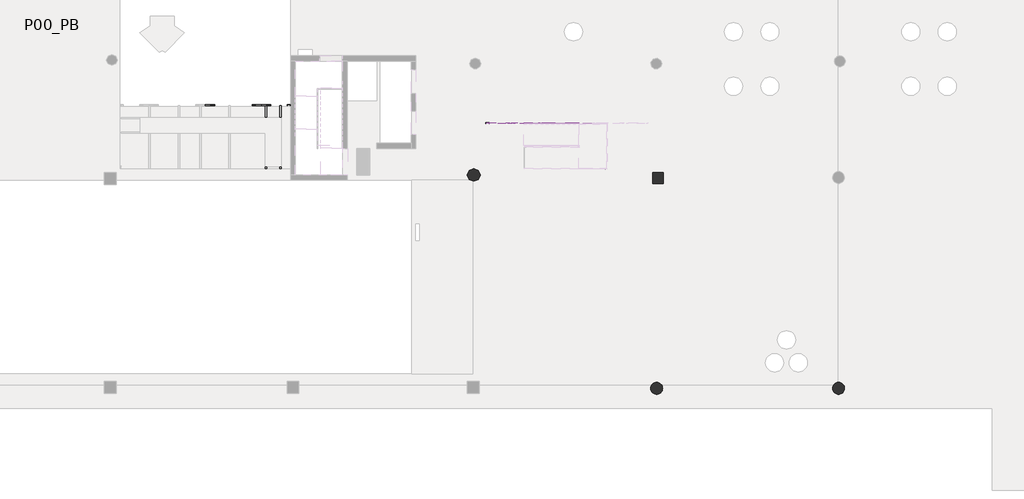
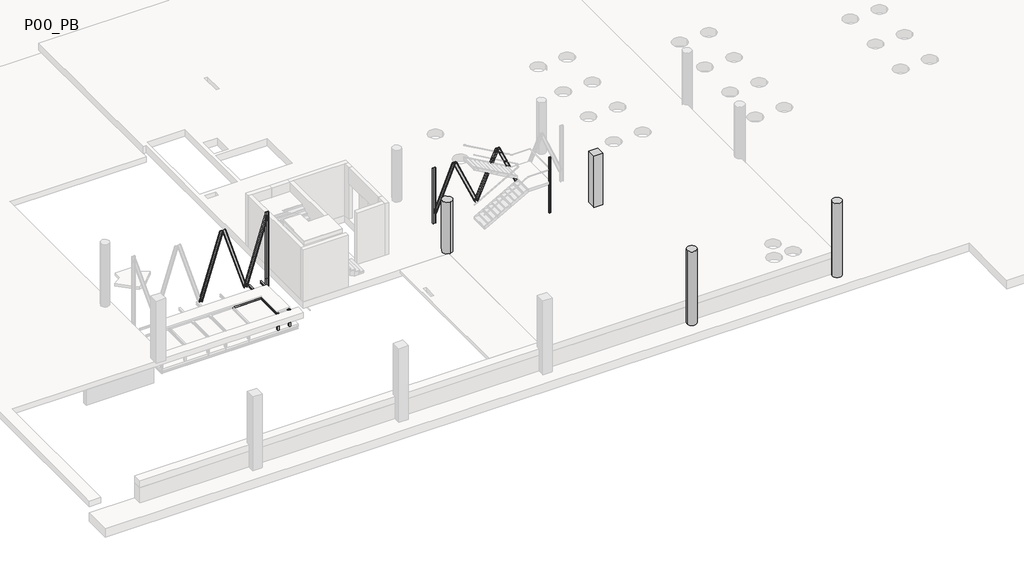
# One storey, part 3 of 7: 17 beams, 10 columns.
"""IFC4 building model written with IfcOpenShell, lengths in millimetres."""

from ifc_helpers import new_model, si_unit, frame, origin, place, context, project, spatial, polyline, circle_curve, ellipse_curve, faceted_brep, transform, mapped, element, save
from ifc_brep_helpers import plane_surface, cylinder_surface, revolved_surface, advanced_brep
from components import ub_universal_beams_ipe_160x82_45623c42, ub_universal_beams_ipe_160x82_16e40fe9, upn120x55_69f0bca1, upn120x55_efc8f615, upn120x55_2e91fe93, upn120x55_dd576345, upn200x75_6b2373fe, upn200x75_76623e6e, upn200x75_c57adbb2, rhs_rectangular_hollow_section_column_100x80x5_0rhs_e8ea1d76, ub_universal_beam_column_ipe_160x82_506ee74c, upn_200x75_e6625032, upn_200x75_16539f99, upn_200x75_48ebdcb8

model = new_model("IFC4")

# Units and contexts
model_context = context("Model", 3, world=origin())
ifc_project = project(units=[si_unit("LENGTHUNIT", "METRE", prefix="MILLI")], contexts=[model_context])

# Site, building, storey
site = spatial("IfcSite", under=ifc_project)
building = spatial("IfcBuilding", under=site)
storey = spatial("IfcBuildingStorey", under=building, Name="P00_PB", Elevation=6330.0)

# Beams
placement = place(None, origin())
ub_universal_beams_ipe_160x82_shape = ub_universal_beams_ipe_160x82_45623c42(model_context)
element("IfcBeam", 1, ObjectType="UB-Universal Beams : IPE 160x82", at=placement, inside=storey, context=model_context, shape_type="MappedRepresentation", body=[
    mapped(ub_universal_beams_ipe_160x82_shape, transform((-14190.4459331, -2796.6939066, 4860.0), x_axis=(0.0, 1.0, 0.0), y_axis=(-1.0, 0.0, 0.0), z_axis=(0.0, 0.0, 1.0))),
])
element("IfcBeam", 2, ObjectType="UB-Universal Beams : IPE 160x82", at=placement, inside=storey, context=model_context, shape_type="MappedRepresentation", body=[
    mapped(ub_universal_beams_ipe_160x82_shape, transform((-14990.4459326, -2796.6938939, 4860.0), x_axis=(0.0, 1.0, 0.0), y_axis=(-1.0, 0.0, 0.0), z_axis=(0.0, 0.0, 1.0))),
])
ub_universal_beams_ipe_160x82_2_shape = ub_universal_beams_ipe_160x82_16e40fe9(model_context)
element("IfcBeam", 3, ObjectType="UB-Universal Beams : IPE 160x82", at=placement, inside=storey, context=model_context, shape_type="MappedRepresentation", body=[
    mapped(ub_universal_beams_ipe_160x82_2_shape, transform((-14190.4459331, -2817.636997, 6250.0), x_axis=(0.0, 1.0, 0.0), y_axis=(-1.0, 0.0, 0.0), z_axis=(0.0, 0.0, 1.0))),
])
element("IfcBeam", 4, ObjectType="UB-Universal Beams : IPE 160x82", at=placement, inside=storey, context=model_context, shape_type="MappedRepresentation", body=[
    mapped(ub_universal_beams_ipe_160x82_2_shape, transform((-14990.4459326, -2817.636969, 6250.0), x_axis=(0.0, 1.0, 0.0), y_axis=(-1.0, 0.0, 0.0), z_axis=(0.0, 0.0, 1.0))),
])
upn120x55_shape = upn120x55_69f0bca1(model_context)
element("IfcBeam", 5, ObjectType="M_MC Shapes : UPN120x55", at=placement, inside=storey, context=model_context, shape_type="MappedRepresentation", body=[
    mapped(upn120x55_shape, transform((-14590.4459328, -1772.1875003, 6270.0), x_axis=(0.9999999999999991, -4.319868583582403e-08, 0.0), y_axis=(4.319868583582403e-08, 0.9999999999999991, 0.0), z_axis=(0.0, 0.0, 1.0))),
])
element("IfcBeam", 6, ObjectType="M_MC Shapes : UPN120x55", at=placement, inside=storey, context=model_context, shape_type="MappedRepresentation", body=[
    mapped(upn120x55_shape, transform((-14590.4459328, -2572.1874803, 6270.0), x_axis=(0.9999999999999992, -4.0441322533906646e-08, 0.0), y_axis=(4.0441322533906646e-08, 0.9999999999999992, 0.0), z_axis=(0.0, 0.0, 1.0))),
])
upn120x55_2_shape = upn120x55_efc8f615(model_context)
element("IfcBeam", 7, ObjectType="M_MC Shapes : UPN120x55", at=placement, inside=storey, context=model_context, shape_type="MappedRepresentation", body=[
    mapped(upn120x55_2_shape, transform((-15990.4459321, -2572.1874237, 6270.0), x_axis=(0.9999999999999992, -4.0441322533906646e-08, 0.0), y_axis=(4.0441322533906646e-08, 0.9999999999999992, 0.0), z_axis=(0.0, 0.0, 1.0))),
])
element("IfcBeam", 8, ObjectType="M_MC Shapes : UPN120x55", at=placement, inside=storey, context=model_context, shape_type="MappedRepresentation", body=[
    mapped(upn120x55_2_shape, transform((-15990.4459321, -1772.1874398, 6270.0), x_axis=(0.9999999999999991, -4.319868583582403e-08, 0.0), y_axis=(4.319868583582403e-08, 0.9999999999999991, 0.0), z_axis=(0.0, 0.0, 1.0))),
])
upn120x55_3_shape = upn120x55_2e91fe93(model_context)
element("IfcBeam", 9, ObjectType="M_MC Shapes : UPN120x55", at=placement, inside=storey, context=model_context, shape_type="MappedRepresentation", body=[
    mapped(upn120x55_3_shape, transform((-17790.4459312, -1772.1873621, 6270.0), x_axis=(0.9999999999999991, -4.319868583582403e-08, 0.0), y_axis=(4.319868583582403e-08, 0.9999999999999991, 0.0), z_axis=(0.0, 0.0, 1.0))),
])
upn120x55_4_shape = upn120x55_dd576345(model_context)
element("IfcBeam", 10, ObjectType="M_MC Shapes : UPN120x55", at=placement, inside=storey, context=model_context, shape_type="MappedRepresentation", body=[
    mapped(upn120x55_4_shape, transform((-19190.4459311, -1772.1873016, 6270.0), x_axis=(0.9999999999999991, -4.319868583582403e-08, 0.0), y_axis=(4.319868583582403e-08, 0.9999999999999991, 0.0), z_axis=(0.0, 0.0, 1.0))),
])
element("IfcBeam", 11, ObjectType="M_MC Shapes : UPN200x75", at=placement, inside=storey, context=model_context, shape_type="AdvancedBrep", body=[
    advanced_brep(
    [(3162.565459, -1999.8318821, 7801.3981948), (3162.5654569, -2074.8318821, 7801.3981948), (3161.6780535, -2074.8318821, 7800.9950731), (3158.1306664, -2071.5312593, 7799.3835975), (3148.942869, -2010.9831272, 7795.2098455), (3141.8480949, -2004.3818815, 7791.9868943), (3001.1907151, -2004.3818776, 7728.0903059), (2994.0959406, -2010.9831229, 7724.8673547), (2984.9081398, -2071.5312544, 7720.6936027), (2981.3607525, -2074.8318771, 7719.0821271), (2980.4733492, -2074.831877, 7718.6790053), (2980.4733513, -1999.831877, 7718.6790053), (1462.7731106, -1999.8318346, 11059.6357682), (1680.1857166, -1999.8318407, 11064.602939), (1462.7731086, -2074.8318346, 11059.6357681), (1463.832642, -2074.8318346, 11059.659975), (1468.0681177, -2071.531212, 11059.7567419), (1479.0380806, -2010.9830805, 11060.0073698), (1487.509032, -2004.3818353, 11060.2009035), (1655.4497949, -2004.38184, 11064.0378037), (1663.920746, -2010.9830857, 11064.2313374), (1674.8907055, -2071.5312178, 11064.4819653), (1679.126181, -2074.8318406, 11064.5787321), (1680.1857145, -2074.8318407, 11064.602939)],
    [
        (0, 1),
        (1, 2),
        (2, 3, circle_curve(frame((3161.6780536, -2070.8818821, 7800.9950731), z_axis=(0.41359594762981, -1.1570777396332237e-08, -0.91046053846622), x_axis=(-2.7976041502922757e-08, -0.9999999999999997, 0.0)), 3.95)),
        (3, 4),
        (4, 5, circle_curve(frame((3141.8480947, -2012.2818815, 7791.9868943), z_axis=(-0.41359594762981, 1.1570777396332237e-08, 0.91046053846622), x_axis=(-2.7976041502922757e-08, -0.9999999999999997, 0.0)), 7.9)),
        (5, 6),
        (6, 7, circle_curve(frame((3001.1907149, -2012.2818776, 7728.0903059), z_axis=(-0.41359594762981, 1.1570777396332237e-08, 0.91046053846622), x_axis=(-2.7976041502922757e-08, -0.9999999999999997, 0.0)), 7.9)),
        (7, 8),
        (8, 9, circle_curve(frame((2981.3607527, -2070.8818771, 7719.0821271), z_axis=(0.41359594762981, -1.1570777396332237e-08, -0.91046053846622), x_axis=(-2.7976041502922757e-08, -0.9999999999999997, 0.0)), 3.95)),
        (9, 10),
        (10, 11),
        (11, 0),
        (12, 13),
        (13, 0),
        (11, 12),
        (14, 12),
        (10, 14),
        (15, 14),
        (9, 15),
        (16, 15, ellipse_curve(frame((1463.8326421, -2070.8818346, 11059.659975), z_axis=(0.022840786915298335, 6.423558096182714e-12, -0.9997391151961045), x_axis=(-0.999739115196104, 2.948028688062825e-08, -0.022840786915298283)), 4.2950195, 3.95)),
        (8, 16),
        (7, 17),
        (17, 16),
        (18, 17, ellipse_curve(frame((1487.5090318, -2012.2818353, 11060.2009035), z_axis=(-0.022840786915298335, -6.423558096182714e-12, 0.9997391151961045), x_axis=(0.999739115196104, -2.948028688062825e-08, 0.022840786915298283)), 8.5900389, 7.9)),
        (6, 18),
        (19, 18),
        (5, 19),
        (20, 19, ellipse_curve(frame((1655.4497947, -2012.28184, 11064.0378037), z_axis=(-0.022840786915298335, -6.423558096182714e-12, 0.9997391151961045), x_axis=(0.999739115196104, -2.948028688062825e-08, 0.022840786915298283)), 8.5900389, 7.9)),
        (4, 20),
        (3, 21),
        (21, 20),
        (22, 21, ellipse_curve(frame((1679.1261811, -2070.8818406, 11064.5787321), z_axis=(0.022840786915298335, 6.423558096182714e-12, -0.9997391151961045), x_axis=(-0.999739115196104, 2.948028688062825e-08, -0.022840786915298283)), 4.2950195, 3.95)),
        (2, 22),
        (23, 22),
        (1, 23),
        (13, 23),
    ],
    [
        plane_surface(frame((3071.5194048, -2010.7318796, 7760.0386001), z_axis=(0.4135959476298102, -1.1570777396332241e-08, -0.91046053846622), x_axis=(0.9104605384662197, -2.547108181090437e-08, 0.41359594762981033))),
        plane_surface(frame((1663.4869468, -1999.8318402, 11101.3624165), z_axis=(2.7976041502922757e-08, 0.9999999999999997, 0.0), x_axis=(0.41359594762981, -1.1570777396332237e-08, -0.91046053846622))),
        plane_surface(frame((1481.3948391, -1999.8318351, 11018.643227), z_axis=(-0.9104605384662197, 2.547108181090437e-08, -0.4135959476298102), x_axis=(0.41359594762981, -1.1570777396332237e-08, -0.91046053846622))),
        plane_surface(frame((1481.394837, -2074.8318351, 11018.643227), z_axis=(-2.7976041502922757e-08, -0.9999999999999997, 0.0), x_axis=(0.41359594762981, -1.1570777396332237e-08, -0.91046053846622))),
        cylinder_surface(frame((1482.2822405, -2070.8818351, 11019.0463487), z_axis=(-0.41359594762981, 1.1570777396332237e-08, 0.91046053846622), x_axis=(-2.7976041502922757e-08, -0.9999999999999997, 0.0)), 3.95),
        plane_surface(frame((1488.5874758, -2053.3568353, 11021.910635), z_axis=(0.8980726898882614, -0.16439933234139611, 0.40796850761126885), x_axis=(0.41359594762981, -1.1570777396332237e-08, -0.91046053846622))),
        revolved_surface(polyline([(3001.19071467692, -2020.181877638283, 7728.090305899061), (1486.1138719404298, -2020.1818352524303, 11063.272108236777)]), (1502.1122027, -2012.2818357, 11028.0545276), (0.41359594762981, -1.1570777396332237e-08, -0.91046053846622)),
        plane_surface(frame((1502.1122029, -2004.3818357, 11028.0545276), z_axis=(-2.7976041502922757e-08, -0.9999999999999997, 0.0), x_axis=(0.41359594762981, -1.1570777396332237e-08, -0.91046053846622))),
        revolved_surface(polyline([(3141.848094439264, -2020.1818815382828, 7791.986894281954), (1654.0546347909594, -2020.1818399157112, 11067.109008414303)]), (1642.7695825, -2012.2818396, 11091.9511159), (0.41359594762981, -1.1570777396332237e-08, -0.91046053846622)),
        plane_surface(frame((1656.294307, -2053.35684, 11098.0950085), z_axis=(-0.898072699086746, -0.16439928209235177, -0.40796850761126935), x_axis=(0.41359594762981, -1.1570777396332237e-08, -0.91046053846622))),
        cylinder_surface(frame((1662.5995414, -2070.8818402, 11100.9592948), z_axis=(-0.41359594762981, 1.1570777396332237e-08, 0.91046053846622), x_axis=(-2.7976041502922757e-08, -0.9999999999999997, 0.0)), 3.95),
        plane_surface(frame((1662.5995413, -2074.8318402, 11100.9592948), z_axis=(-2.7976041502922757e-08, -0.9999999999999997, 0.0), x_axis=(0.41359594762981, -1.1570777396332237e-08, -0.91046053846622))),
        plane_surface(frame((1663.4869447, -2074.8318402, 11101.3624165), z_axis=(0.9104605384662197, -2.547108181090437e-08, 0.4135959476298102), x_axis=(0.41359594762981, -1.1570777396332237e-08, -0.91046053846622))),
        plane_surface(frame((1462.7731103, -2010.7318342, 11059.6357682), z_axis=(-0.022840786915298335, -6.423558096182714e-12, 0.9997391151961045), x_axis=(0.9997391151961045, 0.0, 0.022840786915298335))),
    ],
    [
        (0, [[1, 2, 3, 4, 5, 6, 7, 8, 9, 10, 11, 12]]),
        (1, [[13, 14, -12, 15]]),
        (2, [[16, -15, -11, 17]]),
        (3, [[18, -17, -10, 19]]),
        (4, [[20, -19, -9, 21]]),
        (5, [[-21, -8, 22, 23]]),
        (6, [[24, -22, -7, 25]]),
        (7, [[26, -25, -6, 27]]),
        (8, [[28, -27, -5, 29]]),
        (9, [[-29, -4, 30, 31]]),
        (10, [[32, -30, -3, 33]]),
        (11, [[34, -33, -2, 35]]),
        (12, [[36, -35, -1, -14]]),
        (13, [[-13, -16, -18, -20, -23, -24, -26, -28, -31, -32, -34, -36]]),
    ],
),
])
element("IfcBeam", 12, ObjectType="M_MC Shapes : UPN200x75", at=placement, inside=storey, context=model_context, shape_type="AdvancedBrep", body=[
    advanced_brep(
    [(-19.4928908, -1999.8318823, 7801.3960132), (163.4778387, -1999.8318774, 7720.638895), (163.4778407, -2074.8318774, 7720.638895), (162.5861555, -2074.8318774, 7721.0324548), (159.0216516, -2071.5312548, 7722.6057068), (149.7895183, -2010.9831232, 7726.6804588), (142.6605105, -2004.3818779, 7729.8269627), (1.3244377, -2004.3818817, 7792.2079455), (-5.8045698, -2010.9831274, 7795.3544494), (-15.0366998, -2071.5312594, 7799.4292014), (-18.6012036, -2074.8318823, 7801.0024534), (-19.4928888, -2074.8318823, 7801.3960132), (1637.2518944, -1999.831838, 11059.7564874), (1420.7764823, -1999.8318438, 11064.6023256), (1637.2518964, -2074.831838, 11059.7564873), (1636.1969302, -2074.831838, 11059.7801029), (1631.9797122, -2071.5312154, 11059.874506), (1621.0570373, -2010.9830839, 11060.1190119), (1612.6226014, -2004.3818387, 11060.3078182), (1445.4057756, -2004.3818431, 11064.0509947), (1436.97134, -2010.9830888, 11064.239801), (1426.0486682, -2071.5312209, 11064.4843068), (1421.8314504, -2074.8318438, 11064.5787099), (1420.7764843, -2074.8318438, 11064.6023255)],
    [
        (0, 1),
        (1, 2),
        (2, 3),
        (3, 4, circle_curve(frame((162.5861554, -2070.8818774, 7721.0324548), z_axis=(-0.40378559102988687, -1.0791758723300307e-08, -0.9148536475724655), x_axis=(2.6726458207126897e-08, -0.9999999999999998, 0.0)), 3.95)),
        (4, 5),
        (5, 6, circle_curve(frame((142.6605107, -2012.2818779, 7729.8269627), z_axis=(0.40378559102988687, 1.0791758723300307e-08, 0.9148536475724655), x_axis=(2.6726458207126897e-08, -0.9999999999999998, 0.0)), 7.9)),
        (6, 7),
        (7, 8, circle_curve(frame((1.3244379, -2012.2818817, 7792.2079455), z_axis=(0.40378559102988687, 1.0791758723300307e-08, 0.9148536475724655), x_axis=(2.6726458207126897e-08, -0.9999999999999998, 0.0)), 7.9)),
        (8, 9),
        (9, 10, circle_curve(frame((-18.6012037, -2070.8818823, 7801.0024534), z_axis=(-0.40378559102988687, -1.0791758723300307e-08, -0.9148536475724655), x_axis=(2.6726458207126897e-08, -0.9999999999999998, 0.0)), 3.95)),
        (10, 11),
        (11, 0),
        (12, 1),
        (0, 13),
        (13, 12),
        (14, 2),
        (12, 14),
        (15, 3),
        (14, 15),
        (16, 4),
        (15, 16, ellipse_curve(frame((1636.1969301, -2070.881838, 11059.7801029), z_axis=(-0.022379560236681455, 2.7212237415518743e-10, -0.9997495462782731), x_axis=(0.9997495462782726, 2.881734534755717e-08, -0.0223795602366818)), 4.2764604, 3.95)),
        (16, 17),
        (17, 5),
        (18, 6),
        (17, 18, ellipse_curve(frame((1612.6226016, -2012.2818387, 11060.3078182), z_axis=(0.022379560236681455, -2.7212237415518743e-10, 0.9997495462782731), x_axis=(-0.9997495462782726, -2.881734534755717e-08, 0.0223795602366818)), 8.5529209, 7.9)),
        (19, 7),
        (18, 19),
        (20, 8),
        (19, 20, ellipse_curve(frame((1445.4057758, -2012.2818431, 11064.0509947), z_axis=(0.022379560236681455, -2.7212237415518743e-10, 0.9997495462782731), x_axis=(-0.9997495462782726, -2.881734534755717e-08, 0.0223795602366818)), 8.5529209, 7.9)),
        (20, 21),
        (21, 9),
        (22, 10),
        (21, 22, ellipse_curve(frame((1421.8314503, -2070.8818438, 11064.5787099), z_axis=(-0.022379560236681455, 2.7212237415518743e-10, -0.9997495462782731), x_axis=(0.9997495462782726, 2.881734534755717e-08, -0.0223795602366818)), 4.2764604, 3.95)),
        (23, 11),
        (22, 23),
        (23, 13),
    ],
    [
        plane_surface(frame((71.9924742, -2010.7318798, 7761.0174541), z_axis=(-0.40378559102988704, -1.0791758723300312e-08, -0.9148536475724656), x_axis=(-0.9148536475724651, -2.4450797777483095e-08, 0.40378559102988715))),
        plane_surface(frame((1437.0021146, -1999.8318434, 11101.3646054), z_axis=(-2.6726458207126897e-08, 0.9999999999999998, 0.0), x_axis=(-0.40378559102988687, -1.0791758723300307e-08, -0.9148536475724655))),
        plane_surface(frame((1619.9728441, -1999.8318385, 11020.6074872), z_axis=(0.9148536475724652, 2.4450797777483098e-08, -0.40378559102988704), x_axis=(-0.40378559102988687, -1.0791758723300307e-08, -0.9148536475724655))),
        plane_surface(frame((1619.9728461, -2074.8318385, 11020.6074872), z_axis=(2.6726458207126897e-08, -0.9999999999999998, 0.0), x_axis=(-0.40378559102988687, -1.0791758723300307e-08, -0.9148536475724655))),
        cylinder_surface(frame((1619.0811608, -2070.8818385, 11021.001047), z_axis=(0.40378559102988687, 1.0791758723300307e-08, 0.9148536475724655), x_axis=(2.6726458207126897e-08, -0.9999999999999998, 0.0)), 3.95),
        plane_surface(frame((1612.7455017, -2053.3568387, 11023.7973933), z_axis=(-0.9024060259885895, -0.16439933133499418, 0.39829163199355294), x_axis=(-0.40378559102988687, -1.0791758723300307e-08, -0.9148536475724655))),
        revolved_surface(polyline([(142.6605108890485, -2020.181877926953, 7729.826962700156), (1613.9460367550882, -2020.1818386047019, 11063.306313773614)]), (1599.1555161, -2012.281839, 11029.7955549), (-0.40378559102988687, -1.0791758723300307e-08, -0.9148536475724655)),
        plane_surface(frame((1599.1555159, -2004.381839, 11029.7955549), z_axis=(2.6726458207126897e-08, -0.9999999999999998, 0.0), x_axis=(-0.40378559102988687, -1.0791758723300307e-08, -0.9148536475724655))),
        revolved_surface(polyline([(1.3244380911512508, -2020.181881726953, 7792.207945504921), (1446.72921096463, -2020.1818430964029, 11067.049490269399)]), (1457.8194433, -2012.2818428, 11092.1765377), (-0.40378559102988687, -1.0791758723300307e-08, -0.9148536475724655)),
        plane_surface(frame((1444.2294598, -2053.3568432, 11098.1746992), z_axis=(0.902406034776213, -0.16439928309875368, -0.3982916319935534), x_axis=(-0.40378559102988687, -1.0791758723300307e-08, -0.9148536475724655))),
        cylinder_surface(frame((1437.8938017, -2070.8818433, 11100.9710455), z_axis=(0.40378559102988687, 1.0791758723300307e-08, 0.9148536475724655), x_axis=(2.6726458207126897e-08, -0.9999999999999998, 0.0)), 3.95),
        plane_surface(frame((1437.8938018, -2074.8318433, 11100.9710455), z_axis=(2.6726458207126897e-08, -0.9999999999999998, 0.0), x_axis=(-0.40378559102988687, -1.0791758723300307e-08, -0.9148536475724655))),
        plane_surface(frame((1437.0021166, -2074.8318434, 11101.3646054), z_axis=(-0.9148536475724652, -2.4450797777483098e-08, 0.40378559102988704), x_axis=(-0.40378559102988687, -1.0791758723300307e-08, -0.9148536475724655))),
        plane_surface(frame((1637.2518945, -2010.7318375, 11059.7564874), z_axis=(0.022379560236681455, -2.7212237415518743e-10, 0.9997495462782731), x_axis=(0.9997495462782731, 6.091504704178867e-12, -0.022379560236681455))),
    ],
    [
        (0, [[1, 2, 3, 4, 5, 6, 7, 8, 9, 10, 11, 12]]),
        (1, [[13, -1, 14, 15]]),
        (2, [[16, -2, -13, 17]]),
        (3, [[18, -3, -16, 19]]),
        (4, [[20, -4, -18, 21]]),
        (5, [[22, 23, -5, -20]]),
        (6, [[24, -6, -23, 25]]),
        (7, [[26, -7, -24, 27]]),
        (8, [[28, -8, -26, 29]]),
        (9, [[30, 31, -9, -28]]),
        (10, [[32, -10, -31, 33]]),
        (11, [[34, -11, -32, 35]]),
        (12, [[-14, -12, -34, 36]]),
        (13, [[-36, -35, -33, -30, -29, -27, -25, -22, -21, -19, -17, -15]]),
    ],
),
])
element("IfcBeam", 13, ObjectType="M_MC Shapes : UPN200x75", at=placement, inside=storey, context=model_context, shape_type="AdvancedBrep", body=[
    advanced_brep(
    [(162.5711621, -1999.831882, 7801.3850124), (162.57116, -2074.831882, 7801.3850124), (161.6814175, -2074.831882, 7800.9870801), (158.1246797, -2071.5312591, 7799.3963492), (148.9126636, -2010.9831271, 7795.2763263), (141.7991881, -2004.3818814, 7792.0948645), (0.7710425, -2004.3818775, 7729.0208234), (-6.3424334, -2010.9831228, 7725.8393616), (-15.5544528, -2071.5312543, 7721.7193387), (-19.1111908, -2074.831877, 7720.1286078), (-20.0009333, -2074.831877, 7719.7306755), (-20.0009312, -1999.831877, 7719.7306755), (-1513.7838956, -1999.8318358, 11059.7012518), (-1296.8844363, -1999.8318418, 11064.6025428), (-1513.7838977, -2074.8318358, 11059.7012518), (-1512.726865, -2074.8318358, 11059.7251376), (-1508.501386, -2071.5312132, 11059.820621), (-1497.5573149, -2010.9830817, 11060.0679249), (-1489.106357, -2004.3818365, 11060.2588917), (-1321.5619751, -2004.3818411, 11064.0449028), (-1313.1110176, -2010.9830868, 11064.2358697), (-1302.1669498, -2071.5312189, 11064.4831735), (-1297.941471, -2074.8318418, 11064.5786569), (-1296.8844383, -2074.8318418, 11064.6025427)],
    [
        (0, 1),
        (1, 2),
        (2, 3, circle_curve(frame((161.6814176, -2070.881882, 7800.9870801), z_axis=(0.4082716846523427, -1.1245508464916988e-08, -0.9128604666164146), x_axis=(-2.7544179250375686e-08, -0.9999999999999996, 0.0)), 3.95)),
        (3, 4),
        (4, 5, circle_curve(frame((141.7991878, -2012.2818814, 7792.0948645), z_axis=(-0.4082716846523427, 1.1245508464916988e-08, 0.9128604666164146), x_axis=(-2.7544179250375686e-08, -0.9999999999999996, 0.0)), 7.9)),
        (5, 6),
        (6, 7, circle_curve(frame((0.7710423, -2012.2818775, 7729.0208234), z_axis=(-0.4082716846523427, 1.1245508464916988e-08, 0.9128604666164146), x_axis=(-2.7544179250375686e-08, -0.9999999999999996, 0.0)), 7.9)),
        (7, 8),
        (8, 9, circle_curve(frame((-19.1111907, -2070.881877, 7720.1286078), z_axis=(0.4082716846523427, -1.1245508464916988e-08, -0.9128604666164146), x_axis=(-2.7544179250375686e-08, -0.9999999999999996, 0.0)), 3.95)),
        (9, 10),
        (10, 11),
        (11, 0),
        (12, 13),
        (13, 0),
        (11, 12),
        (14, 12),
        (10, 14),
        (15, 14),
        (9, 15),
        (16, 15, ellipse_curve(frame((-1512.7268649, -2070.8818358, 11059.7251376), z_axis=(0.022591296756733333, 9.714311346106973e-11, -0.9997447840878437), x_axis=(-0.9997447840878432, 2.9248387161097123e-08, -0.022591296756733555)), 4.2848579, 3.95)),
        (8, 16),
        (7, 17),
        (17, 16),
        (18, 17, ellipse_curve(frame((-1489.1063572, -2012.2818365, 11060.2588917), z_axis=(-0.022591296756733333, -9.714311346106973e-11, 0.9997447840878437), x_axis=(0.9997447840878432, -2.9248387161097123e-08, 0.022591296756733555)), 8.5697158, 7.9)),
        (6, 18),
        (19, 18),
        (5, 19),
        (20, 19, ellipse_curve(frame((-1321.5619754, -2012.2818411, 11064.0449028), z_axis=(-0.022591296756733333, -9.714311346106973e-11, 0.9997447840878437), x_axis=(0.9997447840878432, -2.9248387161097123e-08, 0.022591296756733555)), 8.5697158, 7.9)),
        (4, 20),
        (3, 21),
        (21, 20),
        (22, 21, ellipse_curve(frame((-1297.9414709, -2070.8818418, 11064.5786569), z_axis=(0.022591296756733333, 9.714311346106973e-11, -0.9997447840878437), x_axis=(-0.9997447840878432, 2.9248387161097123e-08, -0.022591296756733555)), 4.2848579, 3.95)),
        (2, 22),
        (23, 22),
        (1, 23),
        (13, 23),
    ],
    [
        plane_surface(frame((71.2851151, -2010.7318795, 7760.5578439), z_axis=(0.40827168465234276, -1.124550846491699e-08, -0.9128604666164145), x_axis=(0.9128604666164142, -2.5143992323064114e-08, 0.40827168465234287))),
        plane_surface(frame((-1313.3309779, -1999.8318413, 11101.3755992), z_axis=(2.7544179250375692e-08, 0.9999999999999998, 0.0), x_axis=(0.40827168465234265, -1.1245508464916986e-08, -0.9128604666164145))),
        plane_surface(frame((-1495.9030713, -1999.8318363, 11019.7212623), z_axis=(-0.9128604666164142, 2.5143992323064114e-08, -0.40827168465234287), x_axis=(0.40827168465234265, -1.1245508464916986e-08, -0.9128604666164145))),
        plane_surface(frame((-1495.9030733, -2074.8318363, 11019.7212623), z_axis=(-2.7544179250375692e-08, -0.9999999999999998, 0.0), x_axis=(0.40827168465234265, -1.1245508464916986e-08, -0.9128604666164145))),
        cylinder_surface(frame((-1495.0133307, -2070.8818363, 11020.1191946), z_axis=(-0.4082716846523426, 1.1245508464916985e-08, 0.9128604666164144), x_axis=(-2.7544179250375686e-08, -0.9999999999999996, 0.0)), 3.95),
        plane_surface(frame((-1488.691475, -2053.3568365, 11022.9466086), z_axis=(0.9004399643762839, -0.16439933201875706, 0.4027166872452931), x_axis=(0.40827168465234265, -1.1245508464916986e-08, -0.9128604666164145))),
        revolved_surface(polyline([(0.7710420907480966, -2020.181877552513, 7729.020823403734), (-1490.4622883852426, -2020.181836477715, 11063.290637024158)]), (-1475.1310977, -2012.2818369, 11029.0114102), (0.4082716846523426, -1.1245508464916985e-08, -0.9128604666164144)),
        plane_surface(frame((-1475.1310975, -2004.3818369, 11029.0114102), z_axis=(-2.7544179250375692e-08, -0.9999999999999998, 0.0), x_axis=(0.40827168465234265, -1.1245508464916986e-08, -0.9128604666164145))),
        revolved_surface(polyline([(141.79918760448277, -2020.1818814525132, 7792.094864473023), (-1322.91790654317, -2020.181841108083, 11067.076648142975)]), (-1334.1029522, -2012.2818408, 11092.0854513), (0.4082716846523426, -1.1245508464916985e-08, -0.9128604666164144)),
        plane_surface(frame((-1320.5425771, -2053.3568411, 11098.1502529), z_axis=(-0.9004399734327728, -0.16439928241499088, -0.4027166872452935), x_axis=(0.40827168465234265, -1.1245508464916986e-08, -0.9128604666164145))),
        cylinder_surface(frame((-1314.2207224, -2070.8818413, 11100.9776669), z_axis=(-0.4082716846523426, 1.1245508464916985e-08, 0.9128604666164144), x_axis=(-2.7544179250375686e-08, -0.9999999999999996, 0.0)), 3.95),
        plane_surface(frame((-1314.2207225, -2074.8318413, 11100.9776669), z_axis=(-2.7544179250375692e-08, -0.9999999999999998, 0.0), x_axis=(0.40827168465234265, -1.1245508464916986e-08, -0.9128604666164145))),
        plane_surface(frame((-1313.33098, -2074.8318413, 11101.3755992), z_axis=(0.9128604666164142, -2.5143992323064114e-08, 0.40827168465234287), x_axis=(0.40827168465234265, -1.1245508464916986e-08, -0.9128604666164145))),
        plane_surface(frame((-1513.783896, -2010.7318354, 11059.7012518), z_axis=(-0.022591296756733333, -9.714311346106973e-11, 0.9997447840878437), x_axis=(0.9997447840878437, -2.195149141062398e-12, 0.022591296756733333))),
    ],
    [
        (0, [[1, 2, 3, 4, 5, 6, 7, 8, 9, 10, 11, 12]]),
        (1, [[13, 14, -12, 15]]),
        (2, [[16, -15, -11, 17]]),
        (3, [[18, -17, -10, 19]]),
        (4, [[20, -19, -9, 21]]),
        (5, [[-21, -8, 22, 23]]),
        (6, [[24, -22, -7, 25]]),
        (7, [[26, -25, -6, 27]]),
        (8, [[28, -27, -5, 29]]),
        (9, [[-29, -4, 30, 31]]),
        (10, [[32, -30, -3, 33]]),
        (11, [[34, -33, -2, 35]]),
        (12, [[36, -35, -1, -14]]),
        (13, [[-13, -16, -18, -20, -23, -24, -26, -28, -31, -32, -34, -36]]),
    ],
),
])
element("IfcBeam", 14, ObjectType="M_MC Shapes : UPN200x75", at=placement, inside=storey, context=model_context, shape_type="AdvancedBrep", body=[
    advanced_brep(
    [(-2869.9820061, -1999.8318829, 7861.7834439), (-2684.924067, -1999.8318773, 7785.9312245), (-2684.9240647, -2074.8318773, 7785.9312245), (-2685.8259217, -2074.8318773, 7786.3008809), (-2689.4310871, -2071.5312547, 7787.7785792), (-2698.7685347, -2010.9831232, 7791.6058453), (-2705.9788656, -2004.3818779, 7794.5612418), (-2848.9272072, -2004.3818823, 7853.1534266), (-2856.1375377, -2010.983128, 7856.1088231), (-2865.4749816, -2071.5312601, 7859.9360892), (-2869.0801468, -2074.8318829, 7861.4137874), (-2869.9820038, -2074.8318829, 7861.7834439), (-1343.0303521, -1999.8318361, 11059.7719579), (-1557.3125846, -1999.8318427, 11064.3251755), (-1343.0303498, -2074.8318361, 11059.7719579), (-1344.0746278, -2074.8318362, 11059.7941474), (-1348.2491198, -2071.5312135, 11059.8828499), (-1359.061134, -2010.9830821, 11060.1125911), (-1367.4101181, -2004.3818369, 11060.2899961), (-1532.9328184, -2004.3818419, 11063.8071373), (-1541.2818021, -2010.9830877, 11063.9845423), (-1552.0938126, -2071.5312198, 11064.2142834), (-1556.2683044, -2074.8318427, 11064.3029859), (-1557.3125824, -2074.8318427, 11064.3251754)],
    [
        (0, 1),
        (1, 2),
        (2, 3),
        (3, 4, circle_curve(frame((-2685.8259218, -2070.8818773, 7786.3008809), z_axis=(-0.3792610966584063, -1.162709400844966e-08, -0.9252896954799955), x_axis=(3.065722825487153e-08, -0.9999999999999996, 0.0)), 3.95)),
        (4, 5),
        (5, 6, circle_curve(frame((-2705.9788653, -2012.2818779, 7794.5612418), z_axis=(0.3792610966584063, 1.162709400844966e-08, 0.9252896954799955), x_axis=(3.065722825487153e-08, -0.9999999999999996, 0.0)), 7.9)),
        (6, 7),
        (7, 8, circle_curve(frame((-2848.927207, -2012.2818823, 7853.1534266), z_axis=(0.3792610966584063, 1.162709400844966e-08, 0.9252896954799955), x_axis=(3.065722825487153e-08, -0.9999999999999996, 0.0)), 7.9)),
        (8, 9),
        (9, 10, circle_curve(frame((-2869.0801469, -2070.8818829, 7861.4137874), z_axis=(-0.3792610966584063, -1.162709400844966e-08, -0.9252896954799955), x_axis=(3.065722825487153e-08, -0.9999999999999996, 0.0)), 3.95)),
        (10, 11),
        (11, 0),
        (12, 1),
        (0, 13),
        (13, 12),
        (14, 2),
        (12, 14),
        (15, 3),
        (14, 15),
        (16, 4),
        (15, 16, ellipse_curve(frame((-1344.0746279, -2070.8818362, 11059.7941474), z_axis=(-0.021243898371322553, 2.788358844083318e-12, -0.9997743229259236), x_axis=(0.9997743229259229, 3.234795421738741e-08, -0.02124389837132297)), 4.2330294, 3.95)),
        (16, 17),
        (17, 5),
        (18, 6),
        (17, 18, ellipse_curve(frame((-1367.4101178, -2012.2818369, 11060.2899961), z_axis=(0.021243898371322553, -2.788358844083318e-12, 0.9997743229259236), x_axis=(-0.9997743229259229, -3.234795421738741e-08, 0.02124389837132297)), 8.4660588, 7.9)),
        (19, 7),
        (18, 19),
        (20, 8),
        (19, 20, ellipse_curve(frame((-1532.9328181, -2012.2818419, 11063.8071373), z_axis=(0.021243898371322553, -2.788358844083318e-12, 0.9997743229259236), x_axis=(-0.9997743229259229, -3.234795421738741e-08, 0.02124389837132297)), 8.4660588, 7.9)),
        (20, 21),
        (21, 9),
        (22, 10),
        (21, 22, ellipse_curve(frame((-1556.2683045, -2070.8818427, 11064.3029859), z_axis=(-0.021243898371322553, 2.788358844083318e-12, -0.9997743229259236), x_axis=(0.9997743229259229, 3.234795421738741e-08, -0.02124389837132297)), 4.2330294, 3.95)),
        (23, 11),
        (22, 23),
        (23, 13),
    ],
    [
        plane_surface(frame((-2777.4530362, -2010.7318801, 7823.8573342), z_axis=(-0.3792610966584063, -1.162709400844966e-08, -0.9252896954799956), x_axis=(-0.9252896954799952, -2.8366817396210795e-08, 0.37926109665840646))),
        plane_surface(frame((-1543.32669, -1999.8318423, 11098.4467986), z_axis=(-3.065722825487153e-08, 0.9999999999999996, 0.0), x_axis=(-0.3792610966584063, -1.162709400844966e-08, -0.9252896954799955))),
        plane_surface(frame((-1358.2687509, -1999.8318366, 11022.5945793), z_axis=(0.9252896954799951, 2.8366817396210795e-08, -0.37926109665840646), x_axis=(-0.3792610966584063, -1.162709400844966e-08, -0.9252896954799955))),
        plane_surface(frame((-1358.2687486, -2074.8318366, 11022.5945793), z_axis=(3.065722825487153e-08, -0.9999999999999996, 0.0), x_axis=(-0.3792610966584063, -1.162709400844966e-08, -0.9252896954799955))),
        cylinder_surface(frame((-1359.1706057, -2070.8818366, 11022.9642357), z_axis=(0.3792610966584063, 1.162709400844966e-08, 0.9252896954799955), x_axis=(3.065722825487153e-08, -0.9999999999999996, 0.0)), 3.95),
        plane_surface(frame((-1365.5785378, -2053.3568368, 11025.590742), z_axis=(-0.9127000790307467, -0.16439933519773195, 0.3741008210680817), x_axis=(-0.3792610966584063, -1.162709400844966e-08, -0.9252896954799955))),
        revolved_surface(polyline([(-2705.978865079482, -2020.181877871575, 7794.56124178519), (-1366.2557579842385, -2020.1818367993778, 11063.106306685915)]), (-1379.3235492, -2012.2818372, 11031.2245966), (-0.3792610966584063, -1.162709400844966e-08, -0.9252896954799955)),
        plane_surface(frame((-1379.3235495, -2004.3818372, 11031.2245966), z_axis=(3.065722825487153e-08, -0.9999999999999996, 0.0), x_axis=(-0.3792610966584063, -1.162709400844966e-08, -0.9252896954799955))),
        revolved_surface(polyline([(-2848.927206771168, -2020.181882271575, 7853.153426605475), (-1531.7784583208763, -2020.1818418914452, 11066.623447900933)]), (-1522.2718909, -2012.2818416, 11089.8167814), (-0.3792610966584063, -1.162709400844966e-08, -0.9252896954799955)),
        plane_surface(frame((-1536.0168997, -2053.356842, 11095.450636), z_axis=(0.9127000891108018, -0.16439927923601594, -0.37410082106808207), x_axis=(-0.3792610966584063, -1.162709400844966e-08, -0.9252896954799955))),
        cylinder_surface(frame((-1542.4248308, -2070.8818422, 11098.0771422), z_axis=(0.3792610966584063, 1.162709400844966e-08, 0.9252896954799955), x_axis=(3.065722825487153e-08, -0.9999999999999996, 0.0)), 3.95),
        plane_surface(frame((-1542.4248307, -2074.8318422, 11098.0771422), z_axis=(3.065722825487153e-08, -0.9999999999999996, 0.0), x_axis=(-0.3792610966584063, -1.162709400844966e-08, -0.9252896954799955))),
        plane_surface(frame((-1543.3266877, -2074.8318423, 11098.4467986), z_axis=(-0.9252896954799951, -2.8366817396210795e-08, 0.37926109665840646), x_axis=(-0.3792610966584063, -1.162709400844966e-08, -0.9252896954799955))),
        plane_surface(frame((-1343.0303519, -2010.7318358, 11059.7719579), z_axis=(0.021243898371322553, -2.788358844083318e-12, 0.9997743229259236), x_axis=(0.9997743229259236, 0.0, -0.021243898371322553))),
    ],
    [
        (0, [[1, 2, 3, 4, 5, 6, 7, 8, 9, 10, 11, 12]]),
        (1, [[13, -1, 14, 15]]),
        (2, [[16, -2, -13, 17]]),
        (3, [[18, -3, -16, 19]]),
        (4, [[20, -4, -18, 21]]),
        (5, [[22, 23, -5, -20]]),
        (6, [[24, -6, -23, 25]]),
        (7, [[26, -7, -24, 27]]),
        (8, [[28, -8, -26, 29]]),
        (9, [[30, 31, -9, -28]]),
        (10, [[32, -10, -31, 33]]),
        (11, [[34, -11, -32, 35]]),
        (12, [[-14, -12, -34, 36]]),
        (13, [[-36, -35, -33, -30, -29, -27, -25, -22, -21, -19, -17, -15]]),
    ],
),
])
upn200x75_shape = upn200x75_6b2373fe(model_context)
element("IfcBeam", 15, ObjectType="M_MC Shapes : UPN200x75", at=placement, inside=storey, context=model_context, shape_type="MappedRepresentation", body=[
    mapped(upn200x75_shape, transform((-15976.071373, -1021.4872842, 8555.0888771), x_axis=(-0.29817237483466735, -1.1146237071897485e-08, 0.9545120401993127), y_axis=(-3.7381860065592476e-08, 0.9999999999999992, 0.0), z_axis=(-0.9545120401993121, -3.568143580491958e-08, -0.2981723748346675))),
])
upn200x75_2_shape = upn200x75_76623e6e(model_context)
element("IfcBeam", 16, ObjectType="M_MC Shapes : UPN200x75", at=placement, inside=storey, context=model_context, shape_type="MappedRepresentation", body=[
    mapped(upn200x75_2_shape, transform((-14505.6369223, -1021.4872852, 8596.0465486), x_axis=(0.2966255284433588, -1.1791240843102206e-08, 0.9549938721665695), y_axis=(-3.9751264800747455e-08, -0.9999999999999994, 0.0), z_axis=(0.9549938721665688, -3.7962214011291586e-08, -0.29662552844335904))),
])
upn200x75_3_shape = upn200x75_c57adbb2(model_context)
element("IfcBeam", 17, ObjectType="M_MC Shapes : UPN200x75", at=placement, inside=storey, context=model_context, shape_type="MappedRepresentation", body=[
    mapped(upn200x75_3_shape, transform((-17609.0997983, -1021.4872842, 8554.9153966), x_axis=(0.29470276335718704, -1.1157943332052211e-08, 0.9555889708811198), y_axis=(-3.786168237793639e-08, -0.9999999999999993, 0.0), z_axis=(0.9555889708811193, -3.618020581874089e-08, -0.294702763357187))),
])

# Columns
element("IfcColumn", 18, ObjectType="Hormigón-Redondo-Pilar : Pilo_Rodo-Formigo-700", at=placement, inside=storey, context=model_context, shape_type="AdvancedBrep", body=[
    advanced_brep(
    [(-3566.6085023, -4535.099638, 7100.0), (-3566.6085023, -5235.099638, 7100.0), (-3566.6085023, -4535.099638, 10860.0), (-3435.4940632, -4560.5861501, 10860.0), (-3566.6085023, -5235.099638, 10860.0), (-3697.7229413, -4560.5861501, 10860.0)],
    [
        (0, 1, circle_curve(frame((-3566.6085023, -4885.099638, 7100.0), z_axis=(0.0, 0.0, -1.0), x_axis=(0.0, -1.0, 0.0)), 350.0)),
        (1, 0, circle_curve(frame((-3566.6085023, -4885.099638, 7100.0), z_axis=(0.0, 0.0, -1.0), x_axis=(0.0, -1.0, 0.0)), 350.0)),
        (2, 3, circle_curve(frame((-3566.6085023, -4885.099638, 10860.0), z_axis=(0.0, 0.0, -1.0), x_axis=(0.0, -1.0, 0.0)), 350.0)),
        (3, 4, circle_curve(frame((-3566.6085023, -4885.099638, 10860.0), z_axis=(0.0, 0.0, -1.0), x_axis=(0.0, -1.0, 0.0)), 350.0)),
        (4, 1),
        (0, 2),
        (4, 5, circle_curve(frame((-3566.6085023, -4885.099638, 10860.0), z_axis=(0.0, 0.0, -1.0), x_axis=(0.0, -1.0, 0.0)), 350.0)),
        (5, 2, circle_curve(frame((-3566.6085023, -4885.099638, 10860.0), z_axis=(0.0, 0.0, -1.0), x_axis=(0.0, -1.0, 0.0)), 350.0)),
    ],
    [
        plane_surface(frame((-3566.6085023, -5235.099638, 7100.0), z_axis=(0.0, 0.0, -1.0), x_axis=(-1.0, 0.0, 0.0))),
        cylinder_surface(frame((-3566.6085023, -4885.099638, 7100.0), z_axis=(0.0, 0.0, 1.0), x_axis=(0.0, -1.0, 0.0)), 350.0),
        plane_surface(frame((-3566.6085023, -5235.099638, 10860.0), z_axis=(0.0, 0.0, 1.0), x_axis=(1.0, 0.0, 0.0))),
    ],
    [
        (0, [[1, 2]]),
        (1, [[3, 4, 5, -1, 6]]),
        (1, [[7, 8, -6, -2, -5]]),
        (2, [[-8, -7, -4, -3]]),
    ],
),
])
element("IfcColumn", 19, ObjectType="Hormigón-Redondo-Pilar : Pilo_Rodo-Formigo-650", at=placement, inside=storey, context=model_context, shape_type="AdvancedBrep", body=[
    advanced_brep(
    [(16809.540271, -16634.8146303, 5480.0), (16159.540271, -16634.8146303, 5480.0), (16228.5400196, -16434.5925753, 5480.0), (16434.7068512, -16434.588401, 5480.0), (16434.7054341, -16313.6581435, 5480.0), (16159.540271, -16634.8146303, 10860.0), (16809.540271, -16634.8146303, 10860.0), (16434.7054341, -16313.6581435, 6600.0), (16228.5400196, -16434.5925753, 6600.0), (16434.7068512, -16434.588401, 6600.0)],
    [
        (0, 1, circle_curve(frame((16484.540271, -16634.8146303, 5480.0), z_axis=(0.0, 0.0, -1.0), x_axis=(1.0, 0.0, 0.0)), 325.0)),
        (1, 2, circle_curve(frame((16484.540271, -16634.8146303, 5480.0), z_axis=(0.0, 0.0, -1.0), x_axis=(1.0, 0.0, 0.0)), 325.0)),
        (2, 3),
        (3, 4),
        (4, 0, circle_curve(frame((16484.540271, -16634.8146303, 5480.0), z_axis=(0.0, 0.0, -1.0), x_axis=(1.0, 0.0, 0.0)), 325.0)),
        (5, 6, circle_curve(frame((16484.540271, -16634.8146303, 10860.0), z_axis=(0.0, 0.0, -1.0), x_axis=(1.0, 0.0, 0.0)), 325.0)),
        (6, 0),
        (4, 7),
        (7, 8, circle_curve(frame((16484.540271, -16634.8146303, 6600.0), z_axis=(0.0, 0.0, 1.0), x_axis=(1.0, 0.0, 0.0)), 325.0)),
        (8, 2),
        (1, 5),
        (6, 5, circle_curve(frame((16484.540271, -16634.8146303, 10860.0), z_axis=(0.0, 0.0, -1.0), x_axis=(1.0, 0.0, 0.0)), 325.0)),
        (9, 3),
        (8, 9),
        (7, 9),
    ],
    [
        plane_surface(frame((16809.540271, -16634.8146303, 5480.0), z_axis=(0.0, 0.0, -1.0), x_axis=(0.0, -1.0, 0.0))),
        cylinder_surface(frame((16484.540271, -16634.8146303, 5480.0), z_axis=(0.0, 0.0, 1.0), x_axis=(1.0, 0.0, 0.0)), 325.0),
        plane_surface(frame((16809.540271, -16634.8146303, 10860.0), z_axis=(0.0, 0.0, 1.0), x_axis=(0.0, 1.0, 0.0))),
        plane_surface(frame((-23701.0301939, -16435.4010347, 5480.0), z_axis=(-2.024713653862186e-05, 0.9999999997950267, 0.0), x_axis=(0.9999999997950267, 2.024713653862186e-05, 0.0))),
        plane_surface(frame((-31390.3404532, -15835.5567211, 6600.0), z_axis=(0.0, 0.0, -1.0), x_axis=(2.0247136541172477e-05, -0.9999999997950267, 0.0))),
        plane_surface(frame((16434.5509715, -3132.6075252, 5480.0), z_axis=(-0.999999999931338, -1.1718535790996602e-05, 0.0), x_axis=(-1.1718535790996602e-05, 0.999999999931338, 0.0))),
    ],
    [
        (0, [[1, 2, 3, 4, 5]]),
        (1, [[6, 7, -5, 8, 9, 10, -2, 11]]),
        (1, [[-1, -7, 12, -11]]),
        (2, [[-6, -12]]),
        (3, [[13, -3, -10, 14]]),
        (4, [[-14, -9, 15]]),
        (5, [[-13, -15, -8, -4]]),
    ],
),
])
element("IfcColumn", 20, ObjectType="Hormigón-Redondo-Pilar : Pilo_Rodo-Formigo-650", at=placement, inside=storey, context=model_context, shape_type="AdvancedBrep", body=[
    advanced_brep(
    [(6809.6816699, -16635.586362, 5480.0), (6159.6816699, -16635.586362, 5480.0), (6229.1276778, -16434.7950347, 5480.0), (6740.2275309, -16434.7846864, 5480.0), (6159.6816699, -16635.586362, 10860.0), (6809.6816699, -16635.586362, 10860.0), (6740.2275309, -16434.7846864, 6600.0), (6229.1276778, -16434.7950347, 6600.0)],
    [
        (0, 1, circle_curve(frame((6484.6816699, -16635.586362, 5480.0), z_axis=(0.0, 0.0, -1.0), x_axis=(1.0, 0.0, 0.0)), 325.0)),
        (1, 2, circle_curve(frame((6484.6816699, -16635.586362, 5480.0), z_axis=(0.0, 0.0, -1.0), x_axis=(1.0, 0.0, 0.0)), 325.0)),
        (2, 3),
        (3, 0, circle_curve(frame((6484.6816699, -16635.586362, 5480.0), z_axis=(0.0, 0.0, -1.0), x_axis=(1.0, 0.0, 0.0)), 325.0)),
        (4, 5, circle_curve(frame((6484.6816699, -16635.586362, 10860.0), z_axis=(0.0, 0.0, -1.0), x_axis=(1.0, 0.0, 0.0)), 325.0)),
        (5, 0),
        (3, 6),
        (6, 7, circle_curve(frame((6484.6816699, -16635.586362, 6600.0), z_axis=(0.0, 0.0, 1.0), x_axis=(1.0, 0.0, 0.0)), 325.0)),
        (7, 2),
        (1, 4),
        (5, 4, circle_curve(frame((6484.6816699, -16635.586362, 10860.0), z_axis=(0.0, 0.0, -1.0), x_axis=(1.0, 0.0, 0.0)), 325.0)),
        (7, 6),
    ],
    [
        plane_surface(frame((6809.6816699, -16635.586362, 5480.0), z_axis=(0.0, 0.0, -1.0), x_axis=(0.0, -1.0, 0.0))),
        cylinder_surface(frame((6484.6816699, -16635.586362, 5480.0), z_axis=(0.0, 0.0, 1.0), x_axis=(1.0, 0.0, 0.0)), 325.0),
        plane_surface(frame((6809.6816699, -16635.586362, 10860.0), z_axis=(0.0, 0.0, 1.0), x_axis=(0.0, 1.0, 0.0))),
        plane_surface(frame((-23701.0301939, -16435.4010347, 5480.0), z_axis=(-2.024713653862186e-05, 0.9999999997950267, 0.0), x_axis=(0.9999999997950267, 2.024713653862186e-05, 0.0))),
        plane_surface(frame((-31390.3404532, -15835.5567211, 6600.0), z_axis=(0.0, 0.0, -1.0), x_axis=(2.0247136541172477e-05, -0.9999999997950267, 0.0))),
    ],
    [
        (0, [[1, 2, 3, 4]]),
        (1, [[5, 6, -4, 7, 8, 9, -2, 10]]),
        (1, [[-1, -6, 11, -10]]),
        (2, [[-5, -11]]),
        (3, [[12, -7, -3, -9]]),
        (4, [[-12, -8]]),
    ],
),
])
element("IfcColumn", 21, ObjectType="Concrete-Rectangular-Column : Pilar_Rectangular-Formigo-600x600", at=placement, inside=storey, context=model_context, shape_type="Brep", body=[
    faceted_brep([(6859.7220868, -4760.6051092, 7100.0), (6859.7220896, -5360.6051092, 7100.0), (6259.7220896, -5360.605112, 7100.0), (6259.7220868, -4760.605112, 7100.0), (6859.7220868, -4760.6051092, 10860.0), (6859.7220896, -5360.6051092, 10860.0), (6859.7220896, -5360.6051092, 10610.0), (6859.7220868, -4760.6051092, 10610.0), (6259.7220896, -5360.605112, 10860.0), (6259.7220896, -5360.605112, 10610.0), (6259.7220868, -4760.605112, 10860.0), (6259.7220868, -4760.605112, 10610.0)], [[[0, 1, 2, 3]], [[4, 5, 6, 1, 0, 7]], [[5, 8, 9, 2, 1, 6]], [[8, 10, 11, 3, 2, 9]], [[10, 4, 7, 0, 3, 11]], [[4, 10, 8, 5]]]),
])
rhs_rectangular_hollow_section_column_100x80x5_0rhs_shape = rhs_rectangular_hollow_section_column_100x80x5_0rhs_e8ea1d76(model_context)
element("IfcColumn", 22, ObjectType="RHS-Rectangular Hollow Section-Column : 100x80x5.0RHS", at=placement, inside=storey, context=model_context, shape_type="MappedRepresentation", body=[
    mapped(rhs_rectangular_hollow_section_column_100x80x5_0rhs_shape, transform((3714.2873994, -4519.6213025, 0.0), x_axis=(1.0, 0.0, 0.0), y_axis=(0.0, 1.0, 0.0), z_axis=(0.0, 0.0, 1.0))),
])
ub_universal_beam_column_ipe_160x82_shape = ub_universal_beam_column_ipe_160x82_506ee74c(model_context)
element("IfcColumn", 23, ObjectType="UB-Universal Beam-Column : IPE_160x82", at=placement, inside=storey, context=model_context, shape_type="MappedRepresentation", body=[
    mapped(ub_universal_beam_column_ipe_160x82_shape, transform((-14990.4459326, -4479.7004929, 0.0), x_axis=(1.0, 0.0, 0.0), y_axis=(0.0, 1.0, 0.0), z_axis=(0.0, 0.0, 1.0))),
])
element("IfcColumn", 24, ObjectType="UB-Universal Beam-Column : IPE_160x82", at=placement, inside=storey, context=model_context, shape_type="MappedRepresentation", body=[
    mapped(ub_universal_beam_column_ipe_160x82_shape, transform((-14190.4459331, -4479.7004929, 0.0), x_axis=(1.0, 0.0, 0.0), y_axis=(0.0, 1.0, 0.0), z_axis=(0.0, 0.0, 1.0))),
])
upn_200x75_shape = upn_200x75_e6625032(model_context)
element("IfcColumn", 25, ObjectType="M_MC Shapes-Column : UPN 200x75", at=placement, inside=storey, context=model_context, shape_type="MappedRepresentation", body=[
    mapped(upn_200x75_shape, transform((-13740.3216426, -1036.9870429, 0.0), x_axis=(-3.122957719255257e-08, -0.9999999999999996, 0.0), y_axis=(0.9999999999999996, -3.122957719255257e-08, 0.0), z_axis=(0.0, 0.0, 1.0))),
])
upn_200x75_2_shape = upn_200x75_16539f99(model_context)
element("IfcColumn", 26, ObjectType="M_MC Shapes-Column : UPN 200x75", at=placement, inside=storey, context=model_context, shape_type="MappedRepresentation", body=[
    mapped(upn_200x75_2_shape, transform((-13740.3216426, -1036.9870429, 0.0), x_axis=(-3.122957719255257e-08, -0.9999999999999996, 0.0), y_axis=(0.9999999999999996, -3.122957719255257e-08, 0.0), z_axis=(0.0, 0.0, 1.0))),
])
upn_200x75_3_shape = upn_200x75_48ebdcb8(model_context)
element("IfcColumn", 27, ObjectType="M_MC Shapes-Column : UPN 200x75", at=placement, inside=storey, context=model_context, shape_type="MappedRepresentation", body=[
    mapped(upn_200x75_3_shape, transform((-2813.6343075, -2026.2316122, 0.0), x_axis=(-3.122957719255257e-08, -0.9999999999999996, 0.0), y_axis=(0.9999999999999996, -3.122957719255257e-08, 0.0), z_axis=(0.0, 0.0, 1.0))),
])

save(model, "model.ifc")
